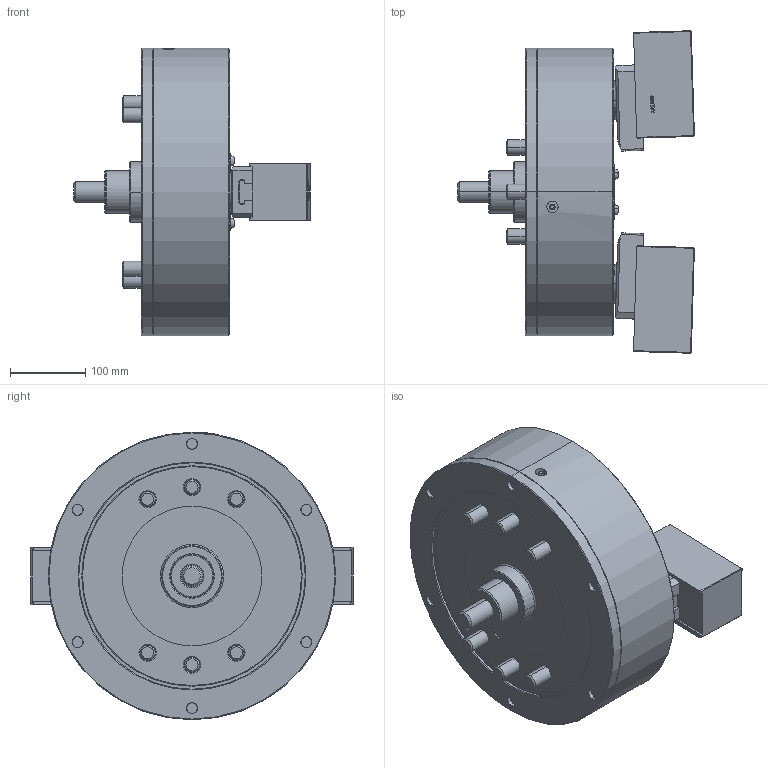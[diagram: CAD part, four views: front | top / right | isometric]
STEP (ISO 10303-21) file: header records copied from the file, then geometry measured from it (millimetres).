
FILE_DESCRIPTION (( 'STEP AP214' ), '1' );
FILE_NAME ('PWT15_OC_ID.STEP', '2019-10-23T01:30:34', ( '' ), ( '' ), 'SwSTEP 2.0', 'SolidWorks 2017', '' );
FILE_SCHEMA (( 'AUTOMOTIVE_DESIGN' ));
Length unit declared in the file: millimetre
Products named in the file (5): 0030120030; 61P422878; 61P334597; PWT15_OC_ID; 結合_ID
Assembly tree (9 placements, depth 2):
  PWT15_OC_ID
    61P334597  x2
    61P422878  x2
    0030120030  x4
    結合_ID
Bounding box: 313.74 x 427.11 x 381 mm (x, y, z)
Volume: 14914706.5 mm3; surface area: 766927.9 mm2
Topology: 9 solids, 10 shells, 1641 faces, 4021 edges, 2520 vertices
Faces by surface type: plane 873, cone 269, cylinder 234, bspline 209, torus 52, sphere 4
Entity records: 47102 total; most frequent: CARTESIAN_POINT 15700, ORIENTED_EDGE 6686, DIRECTION 5958, EDGE_CURVE 3343, VERTEX_POINT 2107, AXIS2_PLACEMENT_3D 1989, VECTOR 1980, LINE 1980
